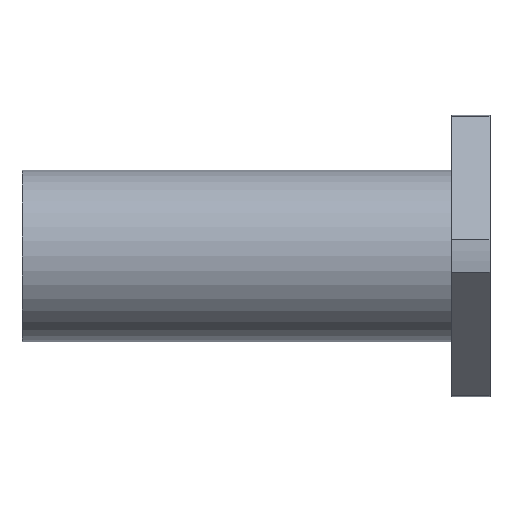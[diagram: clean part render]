
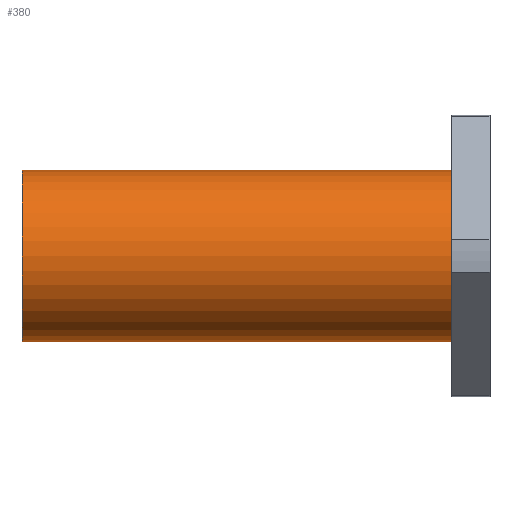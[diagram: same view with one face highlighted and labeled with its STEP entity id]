
A CAD part, front view. The second image highlights one B-rep face of the part: STEP entity #380.
In plain terms, the highlighted cylindrical face has radius 22.5 mm (diameter 45 mm), a full revolution.
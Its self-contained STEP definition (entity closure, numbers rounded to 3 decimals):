
#83=ORIENTED_EDGE('',*,*,#171,.T.);
#84=ORIENTED_EDGE('',*,*,#172,.F.);
#171=EDGE_CURVE('',#215,#215,#245,.T.);
#172=EDGE_CURVE('',#216,#216,#246,.T.);
#215=VERTEX_POINT('',#638);
#216=VERTEX_POINT('',#640);
#245=CIRCLE('',#433,22.5);
#246=CIRCLE('',#434,22.5);
#270=EDGE_LOOP('',(#83));
#271=EDGE_LOOP('',(#84));
#320=FACE_BOUND('',#270,.T.);
#321=FACE_BOUND('',#271,.T.);
#362=CYLINDRICAL_SURFACE('',#432,22.5);
#380=ADVANCED_FACE('',(#320,#321),#362,.T.);
#432=AXIS2_PLACEMENT_3D('',#636,#514,#515);
#433=AXIS2_PLACEMENT_3D('',#637,#516,#517);
#434=AXIS2_PLACEMENT_3D('',#639,#518,#519);
#514=DIRECTION('',(-1.,0.,0.));
#515=DIRECTION('',(0.,0.,1.));
#516=DIRECTION('',(1.,0.,0.));
#517=DIRECTION('',(0.,0.,-1.));
#518=DIRECTION('',(1.,0.,0.));
#519=DIRECTION('',(0.,0.,-1.));
#636=CARTESIAN_POINT('',(61.5,0.,0.));
#637=CARTESIAN_POINT('',(-61.5,0.,0.));
#638=CARTESIAN_POINT('',(-61.5,0.,-22.5));
#639=CARTESIAN_POINT('',(51.5,0.,0.));
#640=CARTESIAN_POINT('',(51.5,0.,-22.5));
